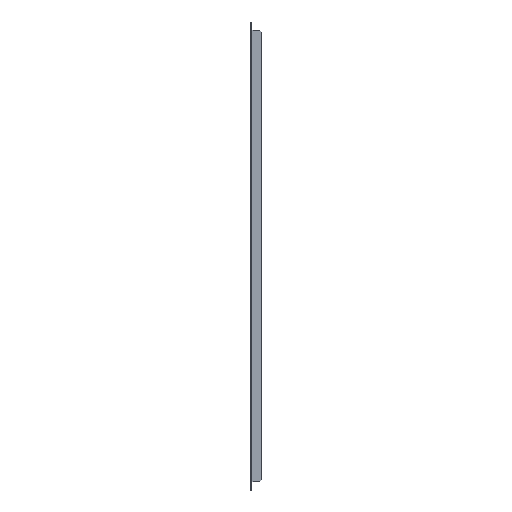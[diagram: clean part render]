
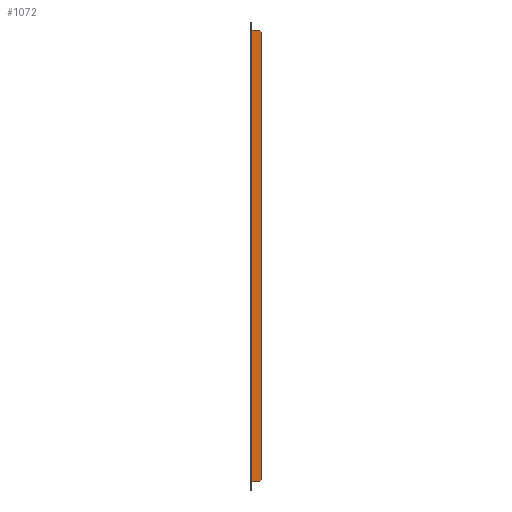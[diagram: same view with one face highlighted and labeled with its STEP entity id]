
A CAD part, left-side view. The second image highlights one B-rep face of the part: STEP entity #1072.
In plain terms, the highlighted planar face has unit normal (-1, 0, 0).
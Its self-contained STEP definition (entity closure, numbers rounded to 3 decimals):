
#5 = PLANE ( 'NONE',  #541 ) ;
#44 = ORIENTED_EDGE ( 'NONE', *, *, #721, .T. ) ;
#72 = DIRECTION ( 'NONE',  ( 0., -0.707, 0.707 ) ) ;
#139 = VERTEX_POINT ( 'NONE', #1054 ) ;
#190 = VERTEX_POINT ( 'NONE', #323 ) ;
#228 = FACE_OUTER_BOUND ( 'NONE', #772, .T. ) ;
#323 = CARTESIAN_POINT ( 'NONE',  ( -79.5, -2.4, 395.45 ) ) ;
#356 = VECTOR ( 'NONE', #636, 1000. ) ;
#374 = LINE ( 'NONE', #880, #356 ) ;
#377 = CARTESIAN_POINT ( 'NONE',  ( -79.5, 0., 0. ) ) ;
#391 = EDGE_CURVE ( 'NONE', #190, #1570, #422, .T. ) ;
#419 = ORIENTED_EDGE ( 'NONE', *, *, #423, .T. ) ;
#422 = LINE ( 'NONE', #1044, #1515 ) ;
#423 = EDGE_CURVE ( 'NONE', #536, #139, #550, .T. ) ;
#502 = CARTESIAN_POINT ( 'NONE',  ( -79.5, -2.4, -395.45 ) ) ;
#536 = VERTEX_POINT ( 'NONE', #876 ) ;
#541 = AXIS2_PLACEMENT_3D ( 'NONE', #377, #883, #1354 ) ;
#550 = LINE ( 'NONE', #1530, #1001 ) ;
#636 = DIRECTION ( 'NONE',  ( 0., 1., 0. ) ) ;
#665 = CARTESIAN_POINT ( 'NONE',  ( -79.5, -19., -392.45 ) ) ;
#677 = ORIENTED_EDGE ( 'NONE', *, *, #1523, .T. ) ;
#680 = DIRECTION ( 'NONE',  ( 0., 0., -1. ) ) ;
#721 = EDGE_CURVE ( 'NONE', #1271, #536, #1092, .T. ) ;
#772 = EDGE_LOOP ( 'NONE', ( #1094, #795, #44, #419, #677, #860 ) ) ;
#795 = ORIENTED_EDGE ( 'NONE', *, *, #1372, .T. ) ;
#825 = VECTOR ( 'NONE', #1334, 1000. ) ;
#860 = ORIENTED_EDGE ( 'NONE', *, *, #391, .T. ) ;
#876 = CARTESIAN_POINT ( 'NONE',  ( -79.5, -19., 392.45 ) ) ;
#880 = CARTESIAN_POINT ( 'NONE',  ( -79.5, 0., 395.45 ) ) ;
#883 = DIRECTION ( 'NONE',  ( -1., 0., 0. ) ) ;
#975 = LINE ( 'NONE', #1314, #1133 ) ;
#1001 = VECTOR ( 'NONE', #1376, 1000. ) ;
#1044 = CARTESIAN_POINT ( 'NONE',  ( -79.5, -2.4, 0. ) ) ;
#1054 = CARTESIAN_POINT ( 'NONE',  ( -79.5, -16., 395.45 ) ) ;
#1057 = VECTOR ( 'NONE', #1300, 1000. ) ;
#1072 = ADVANCED_FACE ( 'NONE', ( #228 ), #5, .T. ) ;
#1092 = LINE ( 'NONE', #1453, #825 ) ;
#1094 = ORIENTED_EDGE ( 'NONE', *, *, #1266, .T. ) ;
#1133 = VECTOR ( 'NONE', #72, 1000. ) ;
#1160 = LINE ( 'NONE', #1167, #1057 ) ;
#1167 = CARTESIAN_POINT ( 'NONE',  ( -79.5, 0., -395.45 ) ) ;
#1266 = EDGE_CURVE ( 'NONE', #1570, #1434, #1160, .T. ) ;
#1271 = VERTEX_POINT ( 'NONE', #665 ) ;
#1300 = DIRECTION ( 'NONE',  ( 0., -1., 0. ) ) ;
#1314 = CARTESIAN_POINT ( 'NONE',  ( -79.5, -205.725, -205.725 ) ) ;
#1334 = DIRECTION ( 'NONE',  ( 0., 0., 1. ) ) ;
#1354 = DIRECTION ( 'NONE',  ( 0., -1., 0. ) ) ;
#1372 = EDGE_CURVE ( 'NONE', #1434, #1271, #975, .T. ) ;
#1376 = DIRECTION ( 'NONE',  ( 0., 0.707, 0.707 ) ) ;
#1429 = CARTESIAN_POINT ( 'NONE',  ( -79.5, -16., -395.45 ) ) ;
#1434 = VERTEX_POINT ( 'NONE', #1429 ) ;
#1453 = CARTESIAN_POINT ( 'NONE',  ( -79.5, -19., 0. ) ) ;
#1515 = VECTOR ( 'NONE', #680, 1000. ) ;
#1523 = EDGE_CURVE ( 'NONE', #139, #190, #374, .T. ) ;
#1530 = CARTESIAN_POINT ( 'NONE',  ( -79.5, -205.725, 205.725 ) ) ;
#1570 = VERTEX_POINT ( 'NONE', #502 ) ;
